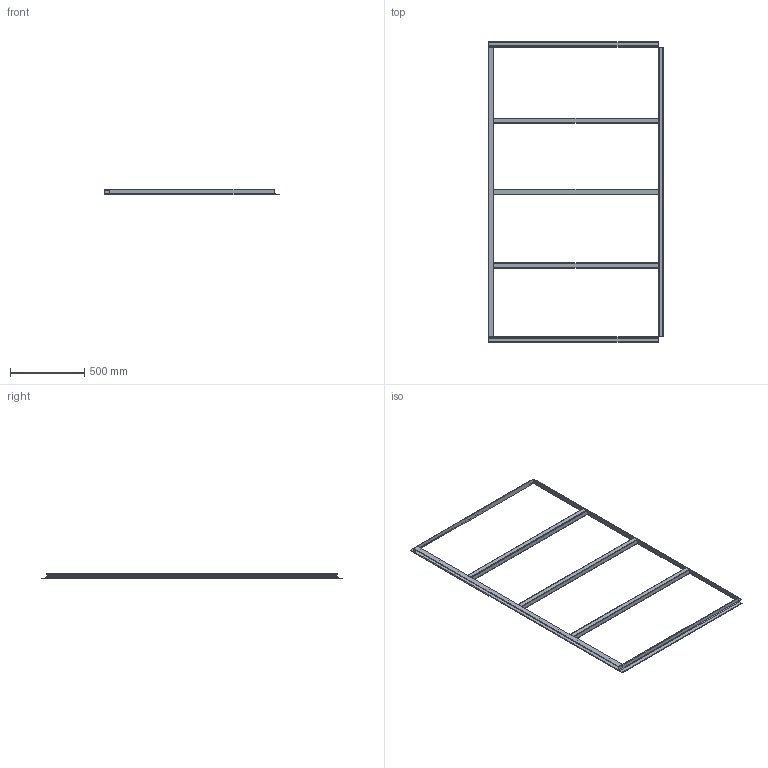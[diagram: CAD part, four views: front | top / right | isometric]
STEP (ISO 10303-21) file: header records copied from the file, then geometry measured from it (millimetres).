
FILE_DESCRIPTION(/* description */ (''),/* implementation_level */ '2;1');
FILE_NAME(/* name */ 'C:\Users\X\Desktop\brama\skrzydlo_lewe\skrzydlo_lewe.stp',/* time_stamp */ '2020-07-23T14:30:46+02:00',/* author */ ('X'),/* organization */ (''),/* preprocessor_version */ 'ST-DEVELOPER v16.5',/* originating_system */ 'Autodesk Inventor 2017',/* authorisation */ '');
FILE_SCHEMA (('AUTOMOTIVE_DESIGN { 1 0 10303 214 3 1 1 }'));
Length unit declared in the file: millimetre
Products named in the file (9): Frame0001; Skeleton0001; PN EN 10056-1 - L35x35x4-1140; PN EN 10056-1 - L35x35x4-1950; PN EN 10056-1 - L35x35x4-1140_1; PN-86/H-93403 - C 35x35 - 1950; PN EN 10305-5 - 35 x 35 x 2  - 1105; PN EN 10305-5 - 35 x 35 x 2  - 1105_1; PN EN 10305-5 - 35 x 35 x 2  - 1105_2
Assembly tree (8 placements, depth 2):
  Frame0001
    Skeleton0001
    PN EN 10056-1 - L35x35x4-1140
    PN EN 10056-1 - L35x35x4-1950
    PN EN 10056-1 - L35x35x4-1140_1
    PN-86/H-93403 - C 35x35 - 1950
    PN EN 10305-5 - 35 x 35 x 2  - 1105
    PN EN 10305-5 - 35 x 35 x 2  - 1105_1
    PN EN 10305-5 - 35 x 35 x 2  - 1105_2
Bounding box: 1175 x 2020 x 35 mm (x, y, z)
Volume: 3042425.2 mm3; surface area: 1799210.2 mm2
Topology: 7 solids, 7 shells, 101 faces, 261 edges, 174 vertices
Faces by surface type: plane 64, cylinder 37
Entity records: 3352 total; most frequent: DIRECTION 571, CARTESIAN_POINT 553, ORIENTED_EDGE 522, EDGE_CURVE 261, AXIS2_PLACEMENT_3D 192, LINE 187, VECTOR 187, VERTEX_POINT 174
